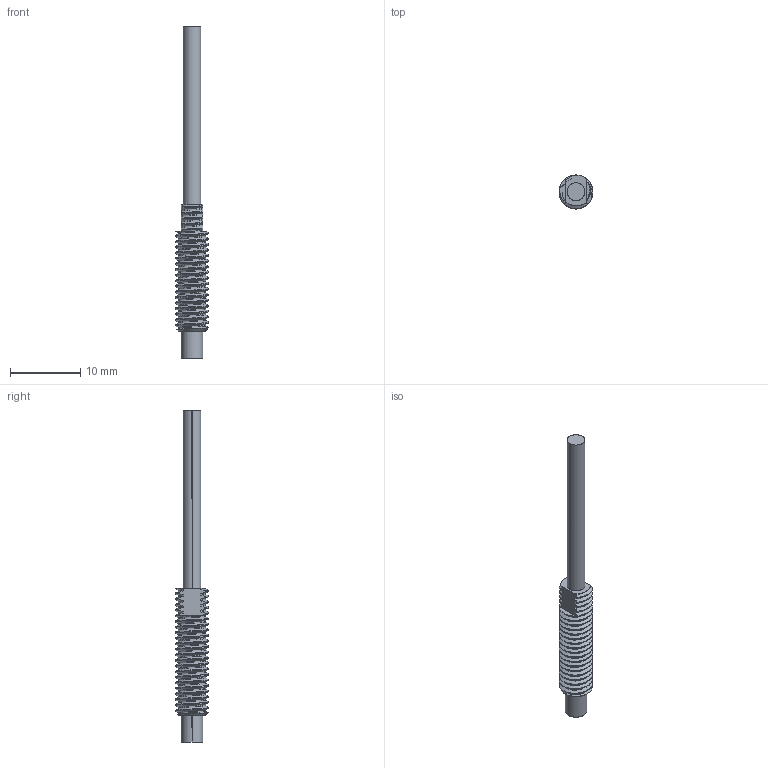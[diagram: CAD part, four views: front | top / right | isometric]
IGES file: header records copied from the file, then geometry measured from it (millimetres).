
Start section: SolidWorks IGES file using analytic representation for surfaces
Global section: file name: C:\Documents and Settings\Administrator\My Documents\EDI\3D\finished sensors\1U1.IGS; native system: SolidWorks 2008; preprocessor: SolidWorks 2008; author: Administrator; date: 100304.192529; units: inch
Bounding box: 4.83 x 4.83 x 47.24 mm (x, y, z)
Surface area: 646.8 mm2 (no closed solid volume)
Topology: 0 solids, 0 shells, 91 faces, 1354 edges, 1354 vertices
Faces by surface type: revolution 52, bspline 39
